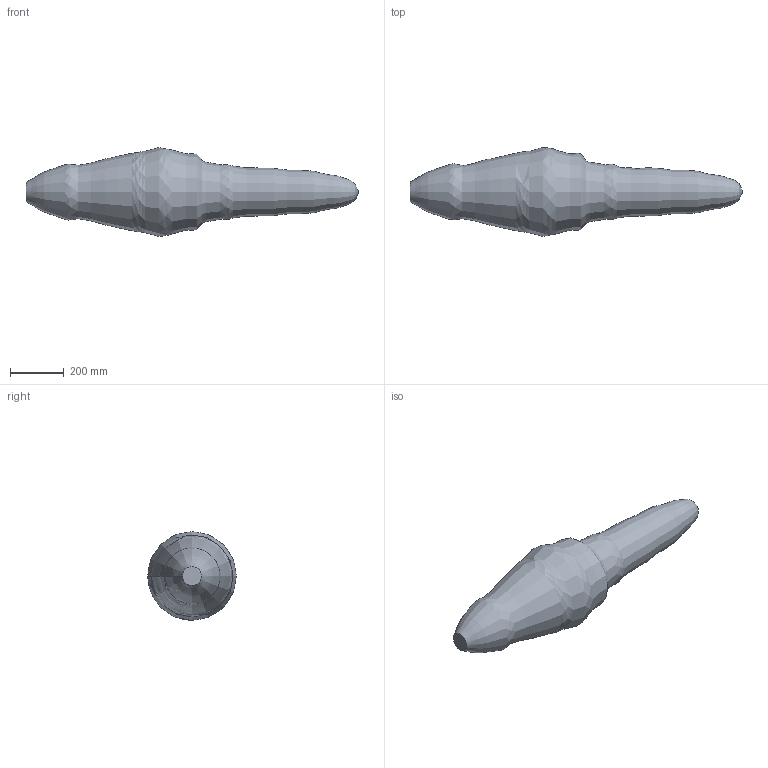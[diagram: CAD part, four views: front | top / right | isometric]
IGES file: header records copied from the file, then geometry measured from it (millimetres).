
Global section: file name: No Iges File Name specified; native system: AutoDesk Inventor R6.1; preprocessor: AutoDesk Inventor Iges Exporter R6.1; author: No Author specified; organization: No Organization specified; date: 20050811.082257; units: millimetre
Bounding box: 1230 x 328.3 x 328.12 mm (x, y, z)
Surface area: 829802.3 mm2 (no closed solid volume)
Topology: 0 solids, 0 shells, 3 faces, 6 edges, 4 vertices
Faces by surface type: plane 2, bspline 1
